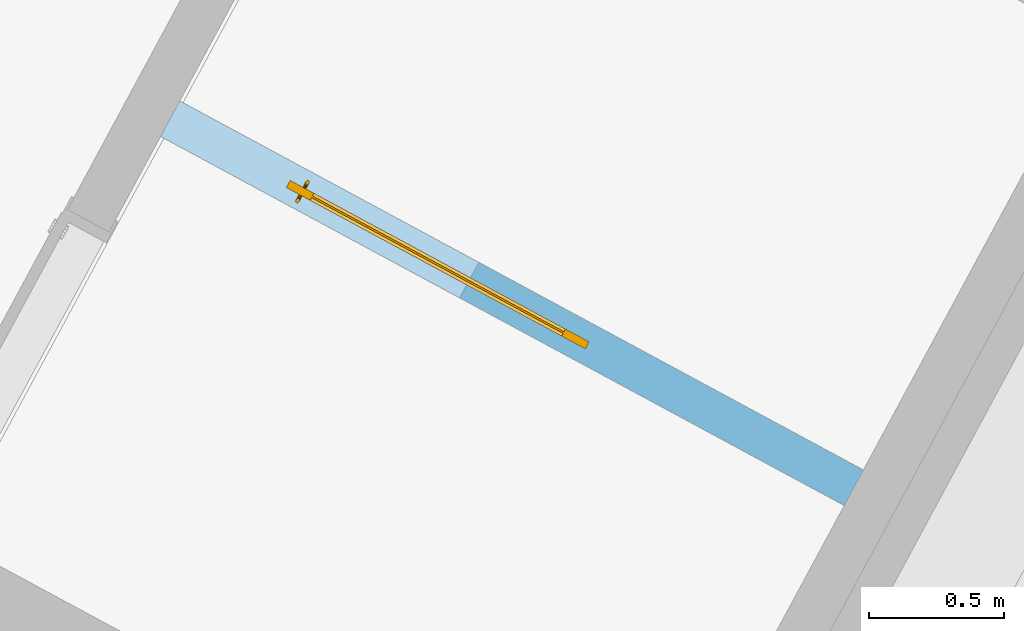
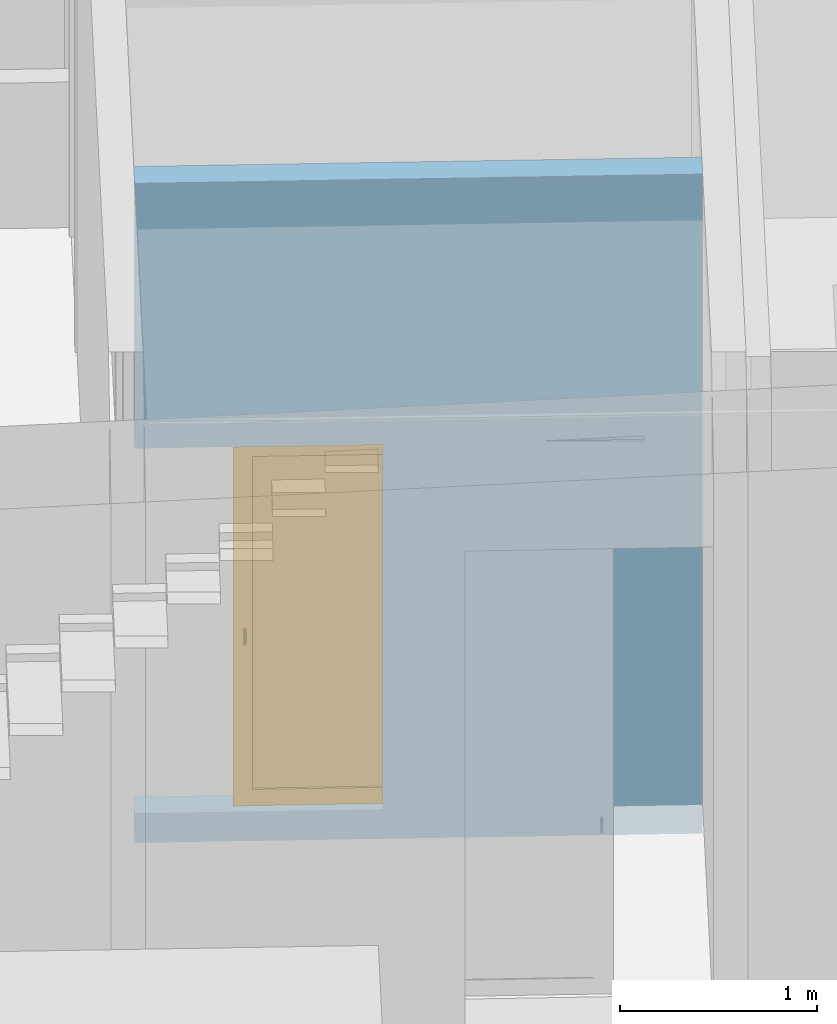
# One storey, part 9 of 36: 1 door, 1 opening, plus 1 element that does not belong to this part.
"""IFC2X3 building model written with IfcOpenShell, lengths in metres."""

from ifc_helpers import new_model, entity, si_unit, converted_unit, derived_unit, money_unit, direction, frame, origin_with_axes, origin_2d_with_axis, place, context, subcontext, project, spatial, polyline, rectangle, outline, extrude, faceted_brep, material, layer, layer_set, layer_usage, type_object, element, fill, save


model = new_model("IFC2X3")

# Units and contexts
model_context = context("Model", 3, precision=1e-05, world=origin_with_axes(), true_north=direction((0.0, 1.0)))
body_context = subcontext(model_context, "Body", "Model", "MODEL_VIEW")
ifc_project = project(units=[si_unit("LENGTHUNIT", "METRE"), si_unit("AREAUNIT", "SQUARE_METRE"), si_unit("VOLUMEUNIT", "CUBIC_METRE"), converted_unit("PLANEANGLEUNIT", "DEGREE", entity("IfcPlaneAngleMeasure", 0.0174532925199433), si_unit("PLANEANGLEUNIT", "RADIAN"), dimensions=[0, 0, 0, 0, 0, 0, 0]), money_unit("EUR"), converted_unit("TIMEUNIT", "Year", entity("IfcTimeMeasure", 31556926.0), si_unit("TIMEUNIT", "SECOND"), dimensions=[0, 0, 1, 0, 0, 0, 0]), si_unit("MASSUNIT", "GRAM", prefix="KILO"), si_unit("THERMODYNAMICTEMPERATUREUNIT", "DEGREE_CELSIUS"), si_unit("LUMINOUSINTENSITYUNIT", "LUMEN"), si_unit("ENERGYUNIT", "JOULE", prefix="MEGA"), derived_unit("THERMALCONDUCTANCEUNIT", [(si_unit("POWERUNIT", "WATT"), 1), (si_unit("LENGTHUNIT", "METRE"), -1), (si_unit("THERMODYNAMICTEMPERATUREUNIT", "KELVIN"), -1)]), derived_unit("SPECIFICHEATCAPACITYUNIT", [(si_unit("ENERGYUNIT", "JOULE"), 1), (si_unit("MASSUNIT", "GRAM", prefix="KILO"), -1), (si_unit("THERMODYNAMICTEMPERATUREUNIT", "KELVIN"), -1)]), derived_unit("MASSDENSITYUNIT", [(si_unit("MASSUNIT", "GRAM", prefix="KILO"), 1), (si_unit("VOLUMEUNIT", "CUBIC_METRE"), -1)])], contexts=[model_context])

# Site, building, storey
site_placement = place(None, frame((-3.949935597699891, 1.740105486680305, 0.0), z_axis=(0.0, 0.0, 1.0), x_axis=(0.8799804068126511, -0.475009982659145, 0.0)))
site = spatial("IfcSite", under=ifc_project, at=site_placement, Name="Gelände", CompositionType="ELEMENT")
building_placement = place(site_placement, origin_with_axes())
building = spatial("IfcBuilding", under=site, at=building_placement, Name="Gebäude", CompositionType="ELEMENT")
storey_placement = place(building_placement, origin_with_axes())
storey = spatial("IfcBuildingStorey", under=building, at=storey_placement, Name="Erdgeschoss", CompositionType="ELEMENT", Elevation=0.0)

# Wall, opening, door
ifc_material_1 = material(Name="_SIWH - Gipskarton")
ifc_layer_1 = layer(ifc_material_1, 0.0125, ventilated="UNKNOWN")
ifc_layer_2 = layer(ifc_material_1, 0.0125, ventilated="UNKNOWN")
ifc_material_2 = material(Name="_SIWH - Dämmung, weich Mineralwolle")
ifc_layer_3 = layer(ifc_material_2, 0.1, ventilated="UNKNOWN")
ifc_layer_4 = layer(ifc_material_1, 0.0125, ventilated="UNKNOWN")
ifc_layer_5 = layer(ifc_material_1, 0.0125, ventilated="UNKNOWN")
ifc_layer_set = layer_set([ifc_layer_1, ifc_layer_2, ifc_layer_3, ifc_layer_4, ifc_layer_5], Name="_SIWH - WI | GK 2-lagig | 15cm")
ifc_layer_usage = layer_usage(ifc_layer_set, "AXIS2", "NEGATIVE", 0.0)
wall_type = type_object("IfcWallType", Name="_SIWH - WI | GK 2-lagig | 15cm 150", PredefinedType="NOTDEFINED")
wall_placement = place(storey_placement, frame((13.41748027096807, 12.58265681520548, -0.18), z_axis=(0.0, 0.0, 1.0), x_axis=(-0.9999999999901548, -4.437408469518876e-06, 0.0)))
wall = element("IfcWallStandardCase", 1, at=wall_placement, inside=storey, type_object=wall_type, material=ifc_layer_usage, Name="I-Wand042", ObjectType="NOTDEFINED", context=body_context, shape_type="SweptSolid", body=[
    extrude(outline(polyline([(0.0, -0.1499999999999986), (2.880057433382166, -0.1499999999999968), (2.880057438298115, 0.0), (0.0, 0.0), (0.0, -0.1499999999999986)])), origin_with_axes(), (0.0, 0.0, 1.0), 4.080000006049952),
])
opening_placement = place(wall_placement, frame((2.250057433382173, 0.0, 0.18), z_axis=(0.0, 0.0, 1.0), x_axis=(1.0, 0.0, 0.0)))
opening = element("IfcOpeningElement", 2, at=opening_placement, cuts=wall, Name="I-Wand060", context=body_context, shape_type="SweptSolid", body=[
    extrude(rectangle(XDim=1.26, YDim=2.26, at=origin_2d_with_axis()), frame((0.0, -0.08999999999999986, 1.13), z_axis=(0.0, -1.0, 0.0), x_axis=(1.0, 0.0, 0.0)), (0.0, 0.0, -1.0), 0.24),
    extrude(rectangle(XDim=1.260000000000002, YDim=2.26, at=origin_2d_with_axis()), frame((0.0, -0.08999999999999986, 1.13), z_axis=(0.0, 1.0, 0.0), x_axis=(1.0, 0.0, 0.0)), (0.0, 0.0, -1.0), 0.21),
])
door_style = type_object("IfcDoorStyle", Name="Schiebetür 02 1-Fl 26", ConstructionType="NOTDEFINED", OperationType="SLIDING_TO_RIGHT", ParameterTakesPrecedence=False, Sizeable=False)
door_placement = place(opening_placement, frame((-0.6300000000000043, 0.0, 0.0), z_axis=(0.0, 0.0, 1.0), x_axis=(1.0, 0.0, 0.0)))
door = element("IfcDoor", 3, at=door_placement, inside=storey, type_object=door_style, Name="I-Wand060", ObjectType="DOOR", OverallHeight=2.26, OverallWidth=1.26, context=body_context, shape_type="Brep", body=[
    faceted_brep([(-0.4999499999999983, -0.05499999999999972, 0.1), (-0.3999499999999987, -0.05500000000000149, 0.1), (-0.3999499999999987, -0.08500000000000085, 0.1), (-0.4999499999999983, -0.08500000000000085, 0.1), (-0.4999499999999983, -0.05499999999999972, 2.159899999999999), (-0.3999499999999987, -0.05500000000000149, 2.159899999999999), (-0.3999499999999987, -0.08500000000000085, 2.159899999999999), (-0.4999499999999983, -0.08500000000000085, 2.159899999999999)], [[[0, 1, 2, 3]], [[0, 4, 5, 1]], [[1, 5, 6, 2]], [[3, 2, 6, 7]], [[4, 0, 3, 7]], [[5, 4, 7, 6]]]),
    faceted_brep([(0.7599500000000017, -0.05499999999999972, 2.159899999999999), (0.6599500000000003, -0.05499999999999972, 2.159899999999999), (0.6599500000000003, -0.08500000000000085, 2.159899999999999), (0.7599500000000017, -0.08500000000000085, 2.159899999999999), (0.7599500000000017, -0.05499999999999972, 0.1), (0.6599500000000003, -0.05499999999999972, 0.1), (0.6599500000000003, -0.08500000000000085, 0.1), (0.7599500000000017, -0.08500000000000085, 0.1)], [[[0, 1, 2, 3]], [[0, 4, 5, 1]], [[1, 5, 6, 2]], [[3, 2, 6, 7]], [[4, 0, 3, 7]], [[5, 4, 7, 6]]]),
    faceted_brep([(0.7599500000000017, -0.05499999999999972, 0.0), (0.7599500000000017, -0.05499999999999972, 0.1), (0.7599500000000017, -0.08500000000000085, 0.1), (0.7599500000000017, -0.08500000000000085, 0.0), (-0.4999499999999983, -0.05499999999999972, 0.0), (-0.4999499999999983, -0.05499999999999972, 0.1), (-0.3999499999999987, -0.05500000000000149, 0.1), (0.6599500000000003, -0.05499999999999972, 0.1), (0.6599500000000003, -0.08500000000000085, 0.1), (-0.3999499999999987, -0.08500000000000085, 0.1), (-0.4999499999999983, -0.08500000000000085, 0.1), (-0.4999499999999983, -0.08500000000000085, 0.0)], [[[0, 1, 2, 3]], [[0, 4, 5, 6, 7, 1]], [[1, 7, 8, 2]], [[3, 2, 8, 9, 10, 11]], [[4, 0, 3, 11]], [[5, 4, 11, 10]], [[6, 5, 10, 9]], [[7, 6, 9, 8]]]),
    faceted_brep([(-0.4999499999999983, -0.05499999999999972, 2.2599), (-0.4999499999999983, -0.05499999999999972, 2.159899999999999), (-0.4999499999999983, -0.08500000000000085, 2.159899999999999), (-0.4999499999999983, -0.08500000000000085, 2.2599), (0.7599500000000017, -0.05499999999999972, 2.2599), (0.7599500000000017, -0.05499999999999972, 2.159899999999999), (0.6599500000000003, -0.05499999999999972, 2.159899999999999), (-0.3999499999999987, -0.05500000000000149, 2.159899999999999), (-0.3999499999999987, -0.08500000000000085, 2.159899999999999), (0.6599500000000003, -0.08500000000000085, 2.159899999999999), (0.7599500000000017, -0.08500000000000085, 2.159899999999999), (0.7599500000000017, -0.08500000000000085, 2.2599)], [[[0, 1, 2, 3]], [[0, 4, 5, 6, 7, 1]], [[1, 7, 8, 2]], [[3, 2, 8, 9, 10, 11]], [[4, 0, 3, 11]], [[5, 4, 11, 10]], [[6, 5, 10, 9]], [[7, 6, 9, 8]]]),
    faceted_brep([(-0.3999499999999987, -0.06649999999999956, 0.1), (0.6599500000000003, -0.06649999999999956, 0.1), (0.6599500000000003, -0.07349999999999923, 0.1), (-0.3999499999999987, -0.07350000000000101, 0.1), (-0.3999499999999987, -0.06649999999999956, 2.159899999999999), (0.6599500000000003, -0.06649999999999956, 2.159899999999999), (0.6599500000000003, -0.07349999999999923, 2.159899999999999), (-0.3999499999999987, -0.07349999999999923, 2.159899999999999)], [[[0, 1, 2, 3]], [[0, 4, 5, 1]], [[1, 5, 6, 2]], [[3, 2, 6, 7]], [[4, 0, 3, 7]], [[5, 4, 7, 6]]]),
    faceted_brep([(0.6929500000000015, -0.09999999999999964, 1.085980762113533), (0.6938878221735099, -0.1017500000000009, 1.089011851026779), (0.6938878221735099, -0.08500000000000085, 1.0935), (0.6929500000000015, -0.08500000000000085, 1.09), (0.6929500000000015, -0.1109807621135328, 1.075), (0.6938878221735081, -0.1140118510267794, 1.07675), (0.6964500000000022, -0.1030310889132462, 1.091230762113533), (0.6964500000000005, -0.08500000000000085, 1.096062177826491), (0.6999500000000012, -0.08500000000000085, 1.097), (0.7034500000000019, -0.08500000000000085, 1.096062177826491), (0.7060121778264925, -0.08500000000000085, 1.0935), (0.7069500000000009, -0.08500000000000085, 1.09), (0.7060121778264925, -0.08500000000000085, 1.0865), (0.7034500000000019, -0.08500000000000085, 1.083937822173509), (0.6999500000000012, -0.08500000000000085, 1.083), (0.6964500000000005, -0.08500000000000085, 1.083937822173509), (0.6938878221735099, -0.08500000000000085, 1.0865), (0.6938878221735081, -0.0982499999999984, 1.082949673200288), (0.6929500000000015, -0.1150000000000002, 1.06), (0.6938878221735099, -0.1185000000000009, 1.06), (0.6964500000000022, -0.116230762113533, 1.078031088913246), (0.6938878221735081, -0.1079496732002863, 1.07325), (0.6999500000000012, -0.1035000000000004, 1.092042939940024), (0.7034500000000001, -0.103031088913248, 1.091230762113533), (0.7060121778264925, -0.1017500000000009, 1.089011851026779), (0.7069500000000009, -0.09999999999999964, 1.085980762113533), (0.7060121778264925, -0.0982499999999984, 1.082949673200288), (0.7034500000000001, -0.0969689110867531, 1.080730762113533), (0.699950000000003, -0.0965000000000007, 1.079918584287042), (0.6964500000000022, -0.0969689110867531, 1.080730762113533), (0.6938878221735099, -0.1114999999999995, 1.06), (0.6964500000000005, -0.1089378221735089, 1.06), (0.6999500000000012, -0.1079999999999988, 1.06), (0.7034500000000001, -0.1089378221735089, 1.06), (0.7060121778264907, -0.1114999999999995, 1.06), (0.7069500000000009, -0.1149999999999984, 1.06), (0.7060121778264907, -0.1185000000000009, 1.06), (0.7034500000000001, -0.1210621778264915, 1.06), (0.6999500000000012, -0.1219999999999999, 1.06), (0.6964500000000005, -0.1210621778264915, 1.06), (0.699950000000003, -0.1170429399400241, 1.0785), (0.6964500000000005, -0.1057307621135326, 1.071968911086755), (0.7034500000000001, -0.116230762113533, 1.078031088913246), (0.7060121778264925, -0.1140118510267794, 1.07675), (0.7069500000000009, -0.1109807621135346, 1.075), (0.7060121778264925, -0.107949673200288, 1.07325), (0.7034500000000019, -0.1057307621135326, 1.071968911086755), (0.699950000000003, -0.1049185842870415, 1.0715)], [[[0, 1, 2, 3]], [[4, 5, 1, 0]], [[1, 6, 7, 2]], [[3, 2, 7, 8, 9, 10, 11, 12, 13, 14, 15, 16]], [[17, 0, 3, 16]], [[18, 19, 5, 4]], [[5, 20, 6, 1]], [[21, 4, 0, 17]], [[6, 22, 8, 7]], [[22, 23, 9, 8]], [[23, 24, 10, 9]], [[24, 25, 11, 10]], [[25, 26, 12, 11]], [[26, 27, 13, 12]], [[27, 28, 14, 13]], [[28, 29, 15, 14]], [[29, 17, 16, 15]], [[18, 30, 31, 32, 33, 34, 35, 36, 37, 38, 39, 19]], [[19, 39, 20, 5]], [[30, 18, 4, 21]], [[20, 40, 22, 6]], [[41, 21, 17, 29]], [[40, 42, 23, 22]], [[42, 43, 24, 23]], [[43, 44, 25, 24]], [[44, 45, 26, 25]], [[45, 46, 27, 26]], [[46, 47, 28, 27]], [[47, 41, 29, 28]], [[31, 30, 21, 41]], [[32, 31, 41, 47]], [[33, 32, 47, 46]], [[34, 33, 46, 45]], [[35, 34, 45, 44]], [[36, 35, 44, 43]], [[37, 36, 43, 42]], [[38, 37, 42, 40]], [[39, 38, 40, 20]]]),
    faceted_brep([(0.7069500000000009, -0.09999999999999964, 1.014019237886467), (0.7060121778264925, -0.1017500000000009, 1.010988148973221), (0.7060121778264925, -0.08500000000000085, 1.0065), (0.7069500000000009, -0.08500000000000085, 1.01), (0.7069500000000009, -0.1109807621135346, 1.025), (0.7060121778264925, -0.1140118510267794, 1.02325), (0.7034500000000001, -0.103031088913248, 1.008769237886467), (0.7034500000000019, -0.08500000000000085, 1.003937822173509), (0.6999500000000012, -0.08500000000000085, 1.003), (0.6964500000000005, -0.08500000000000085, 1.003937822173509), (0.6938878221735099, -0.08500000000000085, 1.0065), (0.6929500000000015, -0.08500000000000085, 1.01), (0.6938878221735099, -0.08500000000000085, 1.0135), (0.6964500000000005, -0.08500000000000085, 1.016062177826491), (0.6999500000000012, -0.08500000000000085, 1.017), (0.7034500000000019, -0.08500000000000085, 1.016062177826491), (0.7060121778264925, -0.08500000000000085, 1.0135), (0.7060121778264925, -0.0982499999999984, 1.017050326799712), (0.7069500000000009, -0.1149999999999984, 1.04), (0.7060121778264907, -0.1185000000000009, 1.04), (0.7034500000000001, -0.116230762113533, 1.021968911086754), (0.7060121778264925, -0.107949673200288, 1.02675), (0.6999500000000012, -0.1035000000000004, 1.007957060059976), (0.6964500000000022, -0.1030310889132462, 1.008769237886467), (0.6938878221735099, -0.1017500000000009, 1.010988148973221), (0.6929500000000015, -0.09999999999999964, 1.014019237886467), (0.6938878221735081, -0.0982499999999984, 1.017050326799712), (0.6964500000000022, -0.0969689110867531, 1.019269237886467), (0.699950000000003, -0.0965000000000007, 1.020081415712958), (0.7034500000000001, -0.0969689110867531, 1.019269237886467), (0.7060121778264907, -0.1114999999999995, 1.04), (0.7034500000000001, -0.1089378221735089, 1.04), (0.6999500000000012, -0.1079999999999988, 1.04), (0.6964500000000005, -0.1089378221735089, 1.04), (0.6938878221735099, -0.1114999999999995, 1.04), (0.6929500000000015, -0.1150000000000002, 1.04), (0.6938878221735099, -0.1185000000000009, 1.04), (0.6964500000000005, -0.1210621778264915, 1.04), (0.6999500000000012, -0.1219999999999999, 1.04), (0.7034500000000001, -0.1210621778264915, 1.04), (0.699950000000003, -0.1170429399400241, 1.0215), (0.7034500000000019, -0.1057307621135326, 1.028031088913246), (0.6964500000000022, -0.116230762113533, 1.021968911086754), (0.6938878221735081, -0.1140118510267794, 1.02325), (0.6929500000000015, -0.1109807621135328, 1.025), (0.6938878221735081, -0.1079496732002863, 1.02675), (0.6964500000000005, -0.1057307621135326, 1.028031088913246), (0.699950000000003, -0.1049185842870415, 1.0285)], [[[0, 1, 2, 3]], [[4, 5, 1, 0]], [[1, 6, 7, 2]], [[3, 2, 7, 8, 9, 10, 11, 12, 13, 14, 15, 16]], [[17, 0, 3, 16]], [[18, 19, 5, 4]], [[5, 20, 6, 1]], [[21, 4, 0, 17]], [[6, 22, 8, 7]], [[22, 23, 9, 8]], [[23, 24, 10, 9]], [[24, 25, 11, 10]], [[25, 26, 12, 11]], [[26, 27, 13, 12]], [[27, 28, 14, 13]], [[28, 29, 15, 14]], [[29, 17, 16, 15]], [[18, 30, 31, 32, 33, 34, 35, 36, 37, 38, 39, 19]], [[19, 39, 20, 5]], [[30, 18, 4, 21]], [[20, 40, 22, 6]], [[41, 21, 17, 29]], [[40, 42, 23, 22]], [[42, 43, 24, 23]], [[43, 44, 25, 24]], [[44, 45, 26, 25]], [[45, 46, 27, 26]], [[46, 47, 28, 27]], [[47, 41, 29, 28]], [[31, 30, 21, 41]], [[32, 31, 41, 47]], [[33, 32, 47, 46]], [[34, 33, 46, 45]], [[35, 34, 45, 44]], [[36, 35, 44, 43]], [[37, 36, 43, 42]], [[38, 37, 42, 40]], [[39, 38, 40, 20]]]),
    faceted_brep([(0.6929500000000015, -0.1150000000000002, 1.04), (0.6929500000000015, -0.1150000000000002, 1.06), (0.6938878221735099, -0.1114999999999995, 1.06), (0.6938878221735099, -0.1114999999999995, 1.04), (0.6938878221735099, -0.1185000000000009, 1.04), (0.6938878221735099, -0.1185000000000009, 1.06), (0.6964500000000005, -0.1210621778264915, 1.06), (0.6999500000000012, -0.1219999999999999, 1.06), (0.7034500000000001, -0.1210621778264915, 1.06), (0.7060121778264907, -0.1185000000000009, 1.06), (0.7069500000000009, -0.1149999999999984, 1.06), (0.7060121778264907, -0.1114999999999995, 1.06), (0.7034500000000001, -0.1089378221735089, 1.06), (0.6999500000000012, -0.1079999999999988, 1.06), (0.6964500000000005, -0.1089378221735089, 1.06), (0.6964500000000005, -0.1089378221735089, 1.04), (0.6999500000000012, -0.1079999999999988, 1.04), (0.7034500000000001, -0.1089378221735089, 1.04), (0.7060121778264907, -0.1114999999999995, 1.04), (0.7069500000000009, -0.1149999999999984, 1.04), (0.7060121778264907, -0.1185000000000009, 1.04), (0.7034500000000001, -0.1210621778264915, 1.04), (0.6999500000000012, -0.1219999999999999, 1.04), (0.6964500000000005, -0.1210621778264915, 1.04)], [[[0, 1, 2, 3]], [[4, 5, 1, 0]], [[1, 5, 6, 7, 8, 9, 10, 11, 12, 13, 14, 2]], [[3, 2, 14, 15]], [[0, 3, 15, 16, 17, 18, 19, 20, 21, 22, 23, 4]], [[23, 6, 5, 4]], [[22, 7, 6, 23]], [[21, 8, 7, 22]], [[20, 9, 8, 21]], [[19, 10, 9, 20]], [[18, 11, 10, 19]], [[17, 12, 11, 18]], [[16, 13, 12, 17]], [[15, 14, 13, 16]]]),
    faceted_brep([(0.6929500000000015, -0.03999999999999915, 1.085980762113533), (0.6929500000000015, -0.05500000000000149, 1.09), (0.6938878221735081, -0.05499999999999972, 1.0935), (0.6938878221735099, -0.03824999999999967, 1.089011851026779), (0.6938878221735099, -0.04174999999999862, 1.082949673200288), (0.6938878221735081, -0.05499999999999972, 1.0865), (0.6964500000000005, -0.05499999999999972, 1.083937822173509), (0.699950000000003, -0.05499999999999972, 1.083), (0.7034500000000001, -0.05499999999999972, 1.083937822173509), (0.7060121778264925, -0.05499999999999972, 1.0865), (0.7069500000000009, -0.05499999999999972, 1.09), (0.7060121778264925, -0.05499999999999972, 1.0935), (0.7034500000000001, -0.05499999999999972, 1.096062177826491), (0.699950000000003, -0.05499999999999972, 1.097), (0.6964500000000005, -0.05499999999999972, 1.096062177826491), (0.6964500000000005, -0.03696891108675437, 1.091230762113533), (0.6929500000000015, -0.02901923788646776, 1.075), (0.6938878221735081, -0.02598814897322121, 1.07675), (0.6964500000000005, -0.0430310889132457, 1.080730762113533), (0.6938878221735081, -0.03205032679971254, 1.07325), (0.6999500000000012, -0.04350000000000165, 1.079918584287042), (0.7034500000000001, -0.04303108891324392, 1.080730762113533), (0.7060121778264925, -0.04174999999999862, 1.082949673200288), (0.7069500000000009, -0.04000000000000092, 1.085980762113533), (0.7060121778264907, -0.03824999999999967, 1.089011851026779), (0.7034500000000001, -0.03696891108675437, 1.091230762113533), (0.6999500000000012, -0.0365000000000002, 1.092042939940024), (0.6964500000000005, -0.02376923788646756, 1.078031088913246), (0.6929500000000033, -0.02500000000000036, 1.06), (0.6938878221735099, -0.02150000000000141, 1.06), (0.6964500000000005, -0.03426923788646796, 1.071968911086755), (0.6938878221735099, -0.0284999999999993, 1.06), (0.6999500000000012, -0.03508141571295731, 1.0715), (0.7034500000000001, -0.03426923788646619, 1.071968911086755), (0.7060121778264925, -0.03205032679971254, 1.07325), (0.7069500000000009, -0.02901923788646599, 1.075), (0.7060121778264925, -0.02598814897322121, 1.07675), (0.7034500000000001, -0.02376923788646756, 1.078031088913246), (0.6999500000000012, -0.02295706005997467, 1.0785), (0.6964500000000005, -0.01893782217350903, 1.06), (0.6999500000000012, -0.01800000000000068, 1.06), (0.7034500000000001, -0.01893782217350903, 1.06), (0.7060121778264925, -0.02150000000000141, 1.06), (0.7069500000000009, -0.02500000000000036, 1.06), (0.7060121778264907, -0.02850000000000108, 1.06), (0.7034500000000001, -0.03106217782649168, 1.06), (0.6999500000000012, -0.03200000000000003, 1.06), (0.6964500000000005, -0.03106217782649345, 1.06)], [[[0, 1, 2, 3]], [[4, 5, 1, 0]], [[1, 5, 6, 7, 8, 9, 10, 11, 12, 13, 14, 2]], [[3, 2, 14, 15]], [[16, 0, 3, 17]], [[18, 6, 5, 4]], [[19, 4, 0, 16]], [[20, 7, 6, 18]], [[21, 8, 7, 20]], [[22, 9, 8, 21]], [[23, 10, 9, 22]], [[24, 11, 10, 23]], [[25, 12, 11, 24]], [[26, 13, 12, 25]], [[15, 14, 13, 26]], [[17, 3, 15, 27]], [[28, 16, 17, 29]], [[30, 18, 4, 19]], [[31, 19, 16, 28]], [[32, 20, 18, 30]], [[33, 21, 20, 32]], [[34, 22, 21, 33]], [[35, 23, 22, 34]], [[36, 24, 23, 35]], [[37, 25, 24, 36]], [[38, 26, 25, 37]], [[27, 15, 26, 38]], [[29, 17, 27, 39]], [[28, 29, 39, 40, 41, 42, 43, 44, 45, 46, 47, 31]], [[47, 30, 19, 31]], [[46, 32, 30, 47]], [[45, 33, 32, 46]], [[44, 34, 33, 45]], [[43, 35, 34, 44]], [[42, 36, 35, 43]], [[41, 37, 36, 42]], [[40, 38, 37, 41]], [[39, 27, 38, 40]]]),
    faceted_brep([(0.7069500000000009, -0.04000000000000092, 1.014019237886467), (0.7069500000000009, -0.05499999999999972, 1.01), (0.7060121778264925, -0.05499999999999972, 1.0065), (0.7060121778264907, -0.03824999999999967, 1.010988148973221), (0.7060121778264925, -0.04174999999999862, 1.017050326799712), (0.7060121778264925, -0.05499999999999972, 1.0135), (0.7034500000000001, -0.05499999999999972, 1.016062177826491), (0.699950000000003, -0.05499999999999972, 1.017), (0.6964500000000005, -0.05500000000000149, 1.016062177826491), (0.6938878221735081, -0.05499999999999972, 1.0135), (0.6929500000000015, -0.05500000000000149, 1.01), (0.6938878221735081, -0.05499999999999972, 1.0065), (0.6964500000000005, -0.05500000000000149, 1.003937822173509), (0.699950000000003, -0.05499999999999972, 1.003), (0.7034500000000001, -0.05499999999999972, 1.003937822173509), (0.7034500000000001, -0.03696891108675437, 1.008769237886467), (0.7069500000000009, -0.02901923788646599, 1.025), (0.7060121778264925, -0.02598814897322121, 1.02325), (0.7034500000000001, -0.04303108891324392, 1.019269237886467), (0.7060121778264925, -0.03205032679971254, 1.02675), (0.6999500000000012, -0.04350000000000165, 1.020081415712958), (0.6964500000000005, -0.0430310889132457, 1.019269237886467), (0.6938878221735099, -0.04174999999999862, 1.017050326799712), (0.6929500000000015, -0.03999999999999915, 1.014019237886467), (0.6938878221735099, -0.03824999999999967, 1.010988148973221), (0.6964500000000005, -0.03696891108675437, 1.008769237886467), (0.6999500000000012, -0.0365000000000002, 1.007957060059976), (0.7034500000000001, -0.02376923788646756, 1.021968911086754), (0.7069500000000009, -0.02500000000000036, 1.04), (0.7060121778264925, -0.02150000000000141, 1.04), (0.7034500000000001, -0.03426923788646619, 1.028031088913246), (0.7060121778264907, -0.02850000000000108, 1.04), (0.6999500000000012, -0.03508141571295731, 1.0285), (0.6964500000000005, -0.03426923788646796, 1.028031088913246), (0.6938878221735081, -0.03205032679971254, 1.02675), (0.6929500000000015, -0.02901923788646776, 1.025), (0.6938878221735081, -0.02598814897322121, 1.02325), (0.6964500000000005, -0.02376923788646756, 1.021968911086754), (0.6999500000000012, -0.02295706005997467, 1.0215), (0.7034500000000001, -0.01893782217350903, 1.04), (0.6999500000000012, -0.01800000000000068, 1.04), (0.6964500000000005, -0.01893782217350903, 1.04), (0.6938878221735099, -0.02150000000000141, 1.04), (0.6929500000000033, -0.02500000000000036, 1.04), (0.6938878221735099, -0.0284999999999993, 1.04), (0.6964500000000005, -0.03106217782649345, 1.04), (0.6999500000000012, -0.03200000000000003, 1.04), (0.7034500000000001, -0.03106217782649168, 1.04)], [[[0, 1, 2, 3]], [[4, 5, 1, 0]], [[1, 5, 6, 7, 8, 9, 10, 11, 12, 13, 14, 2]], [[3, 2, 14, 15]], [[16, 0, 3, 17]], [[18, 6, 5, 4]], [[19, 4, 0, 16]], [[20, 7, 6, 18]], [[21, 8, 7, 20]], [[22, 9, 8, 21]], [[23, 10, 9, 22]], [[24, 11, 10, 23]], [[25, 12, 11, 24]], [[26, 13, 12, 25]], [[15, 14, 13, 26]], [[17, 3, 15, 27]], [[28, 16, 17, 29]], [[30, 18, 4, 19]], [[31, 19, 16, 28]], [[32, 20, 18, 30]], [[33, 21, 20, 32]], [[34, 22, 21, 33]], [[35, 23, 22, 34]], [[36, 24, 23, 35]], [[37, 25, 24, 36]], [[38, 26, 25, 37]], [[27, 15, 26, 38]], [[29, 17, 27, 39]], [[28, 29, 39, 40, 41, 42, 43, 44, 45, 46, 47, 31]], [[47, 30, 19, 31]], [[46, 32, 30, 47]], [[45, 33, 32, 46]], [[44, 34, 33, 45]], [[43, 35, 34, 44]], [[42, 36, 35, 43]], [[41, 37, 36, 42]], [[40, 38, 37, 41]], [[39, 27, 38, 40]]]),
    faceted_brep([(0.6929500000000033, -0.02500000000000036, 1.04), (0.6938878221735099, -0.0284999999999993, 1.04), (0.6938878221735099, -0.0284999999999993, 1.06), (0.6929500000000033, -0.02500000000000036, 1.06), (0.6938878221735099, -0.02150000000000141, 1.04), (0.6964500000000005, -0.01893782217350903, 1.04), (0.6999500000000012, -0.01800000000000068, 1.04), (0.7034500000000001, -0.01893782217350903, 1.04), (0.7060121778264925, -0.02150000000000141, 1.04), (0.7069500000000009, -0.02500000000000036, 1.04), (0.7060121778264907, -0.02850000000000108, 1.04), (0.7034500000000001, -0.03106217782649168, 1.04), (0.6999500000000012, -0.03200000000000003, 1.04), (0.6964500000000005, -0.03106217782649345, 1.04), (0.6964500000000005, -0.03106217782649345, 1.06), (0.6999500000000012, -0.03200000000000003, 1.06), (0.7034500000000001, -0.03106217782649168, 1.06), (0.7060121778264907, -0.02850000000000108, 1.06), (0.7069500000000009, -0.02500000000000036, 1.06), (0.7060121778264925, -0.02150000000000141, 1.06), (0.7034500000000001, -0.01893782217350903, 1.06), (0.6999500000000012, -0.01800000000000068, 1.06), (0.6964500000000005, -0.01893782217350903, 1.06), (0.6938878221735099, -0.02150000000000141, 1.06)], [[[0, 1, 2, 3]], [[0, 4, 5, 6, 7, 8, 9, 10, 11, 12, 13, 1]], [[1, 13, 14, 2]], [[3, 2, 14, 15, 16, 17, 18, 19, 20, 21, 22, 23]], [[4, 0, 3, 23]], [[5, 4, 23, 22]], [[6, 5, 22, 21]], [[7, 6, 21, 20]], [[8, 7, 20, 19]], [[9, 8, 19, 18]], [[10, 9, 18, 17]], [[11, 10, 17, 16]], [[12, 11, 16, 15]], [[13, 12, 15, 14]]]),
])
fill(opening, door)

save(model, "model.ifc")
